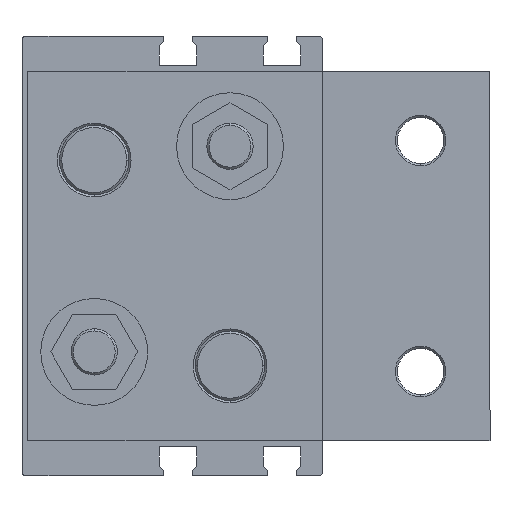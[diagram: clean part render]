
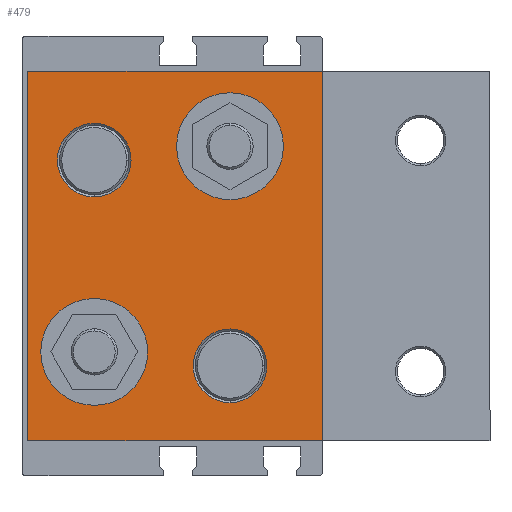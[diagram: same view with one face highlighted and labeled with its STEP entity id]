
A CAD part, left-side view. The second image highlights one B-rep face of the part: STEP entity #479.
In plain terms, the highlighted planar face has unit normal (-1, 0, 0) as drawn and (1, 0, 0) by its records, which use the part's own axes.
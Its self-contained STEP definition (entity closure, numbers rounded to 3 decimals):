
#21 = CARTESIAN_POINT ( 'NONE',  ( 21., -35., -19. ) ) ;
#134 = ORIENTED_EDGE ( 'NONE', *, *, #7344, .F. ) ;
#410 = ORIENTED_EDGE ( 'NONE', *, *, #682, .F. ) ;
#479 = ADVANCED_FACE ( 'NONE', ( #2560, #3978, #2745, #5794, #7237 ), #5134, .F. ) ;
#503 = AXIS2_PLACEMENT_3D ( 'NONE', #4320, #774, #4939 ) ;
#525 = ORIENTED_EDGE ( 'NONE', *, *, #7315, .F. ) ;
#550 = DIRECTION ( 'NONE',  ( 0., 0., -1. ) ) ;
#632 = DIRECTION ( 'NONE',  ( 0., 1., 0. ) ) ;
#633 = ORIENTED_EDGE ( 'NONE', *, *, #2098, .T. ) ;
#674 = VERTEX_POINT ( 'NONE', #2318 ) ;
#682 = EDGE_CURVE ( 'NONE', #2622, #5639, #6271, .T. ) ;
#733 = CARTESIAN_POINT ( 'NONE',  ( 21., -20.75, 16.6 ) ) ;
#768 = CIRCLE ( 'NONE', #4180, 6.375 ) ;
#774 = DIRECTION ( 'NONE',  ( 1., 0., 0. ) ) ;
#788 = EDGE_LOOP ( 'NONE', ( #3219, #4145 ) ) ;
#952 = EDGE_CURVE ( 'NONE', #2512, #674, #3130, .T. ) ;
#976 = ORIENTED_EDGE ( 'NONE', *, *, #2063, .F. ) ;
#1072 = ORIENTED_EDGE ( 'NONE', *, *, #952, .F. ) ;
#1120 = CARTESIAN_POINT ( 'NONE',  ( 21., -35., 19. ) ) ;
#1143 = CARTESIAN_POINT ( 'NONE',  ( 21., -11.5, 16.6 ) ) ;
#1189 = ORIENTED_EDGE ( 'NONE', *, *, #6616, .F. ) ;
#1398 = DIRECTION ( 'NONE',  ( 0., 1., 0. ) ) ;
#1430 = ORIENTED_EDGE ( 'NONE', *, *, #2808, .T. ) ;
#1526 = DIRECTION ( 'NONE',  ( 1., 0., 0. ) ) ;
#1530 = ORIENTED_EDGE ( 'NONE', *, *, #3266, .F. ) ;
#1684 = VERTEX_POINT ( 'NONE', #6154 ) ;
#1702 = DIRECTION ( 'NONE',  ( 0., 0., -1. ) ) ;
#1727 = DIRECTION ( 'NONE',  ( 0., 1., 0. ) ) ;
#1814 = CARTESIAN_POINT ( 'NONE',  ( 21., -11.5, -22.975 ) ) ;
#1963 = CARTESIAN_POINT ( 'NONE',  ( 21., 0., 32. ) ) ;
#1994 = ORIENTED_EDGE ( 'NONE', *, *, #6542, .F. ) ;
#2063 = EDGE_CURVE ( 'NONE', #5442, #6114, #5039, .T. ) ;
#2098 = EDGE_CURVE ( 'NONE', #2512, #6250, #6286, .T. ) ;
#2170 = DIRECTION ( 'NONE',  ( -1., 0., 0. ) ) ;
#2318 = CARTESIAN_POINT ( 'NONE',  ( 21., -51., 32. ) ) ;
#2326 = CARTESIAN_POINT ( 'NONE',  ( 21., -35., 19. ) ) ;
#2470 = CARTESIAN_POINT ( 'NONE',  ( 21., -51., 32. ) ) ;
#2471 = CARTESIAN_POINT ( 'NONE',  ( 21., 0., -32. ) ) ;
#2498 = DIRECTION ( 'NONE',  ( 0., 0., 1. ) ) ;
#2512 = VERTEX_POINT ( 'NONE', #7409 ) ;
#2548 = CARTESIAN_POINT ( 'NONE',  ( 21., 0., 32. ) ) ;
#2560 = FACE_OUTER_BOUND ( 'NONE', #5247, .T. ) ;
#2606 = CARTESIAN_POINT ( 'NONE',  ( 21., -11.5, -10.225 ) ) ;
#2621 = CIRCLE ( 'NONE', #6553, 9.25 ) ;
#2622 = VERTEX_POINT ( 'NONE', #4443 ) ;
#2741 = VECTOR ( 'NONE', #4874, 1000. ) ;
#2745 = FACE_BOUND ( 'NONE', #788, .T. ) ;
#2761 = CARTESIAN_POINT ( 'NONE',  ( 21., -35., 25.375 ) ) ;
#2808 = EDGE_CURVE ( 'NONE', #6250, #6611, #5998, .T. ) ;
#2853 = AXIS2_PLACEMENT_3D ( 'NONE', #5118, #1526, #5737 ) ;
#2887 = CARTESIAN_POINT ( 'NONE',  ( 21., 0., 32. ) ) ;
#2939 = DIRECTION ( 'NONE',  ( 0., 0., -1. ) ) ;
#2968 = DIRECTION ( 'NONE',  ( 0., 1., 0. ) ) ;
#3130 = LINE ( 'NONE', #2470, #5784 ) ;
#3219 = ORIENTED_EDGE ( 'NONE', *, *, #5043, .F. ) ;
#3237 = AXIS2_PLACEMENT_3D ( 'NONE', #5864, #2170, #6532 ) ;
#3266 = EDGE_CURVE ( 'NONE', #6431, #3788, #768, .T. ) ;
#3460 = CARTESIAN_POINT ( 'NONE',  ( 21., -11.5, 16.6 ) ) ;
#3513 = DIRECTION ( 'NONE',  ( 1., 0., 0. ) ) ;
#3532 = EDGE_LOOP ( 'NONE', ( #1530, #1994 ) ) ;
#3539 = EDGE_LOOP ( 'NONE', ( #525, #976 ) ) ;
#3566 = DIRECTION ( 'NONE',  ( 0., 1., 0. ) ) ;
#3741 = VERTEX_POINT ( 'NONE', #7441 ) ;
#3788 = VERTEX_POINT ( 'NONE', #2606 ) ;
#3972 = VECTOR ( 'NONE', #1398, 1000. ) ;
#3978 = FACE_BOUND ( 'NONE', #7072, .T. ) ;
#4090 = DIRECTION ( 'NONE',  ( 1., 0., 0. ) ) ;
#4145 = ORIENTED_EDGE ( 'NONE', *, *, #6768, .F. ) ;
#4174 = DIRECTION ( 'NONE',  ( 1., 0., 0. ) ) ;
#4178 = CARTESIAN_POINT ( 'NONE',  ( 21., 0., -32. ) ) ;
#4180 = AXIS2_PLACEMENT_3D ( 'NONE', #7767, #4090, #550 ) ;
#4320 = CARTESIAN_POINT ( 'NONE',  ( 21., -11.5, -16.6 ) ) ;
#4443 = CARTESIAN_POINT ( 'NONE',  ( 21., -2.25, 16.6 ) ) ;
#4451 = VECTOR ( 'NONE', #2968, 1000. ) ;
#4610 = AXIS2_PLACEMENT_3D ( 'NONE', #2326, #6589, #2939 ) ;
#4828 = CIRCLE ( 'NONE', #2853, 9.25 ) ;
#4874 = DIRECTION ( 'NONE',  ( 0., 0., 1. ) ) ;
#4939 = DIRECTION ( 'NONE',  ( 0., 0., -1. ) ) ;
#5039 = CIRCLE ( 'NONE', #4610, 6.375 ) ;
#5043 = EDGE_CURVE ( 'NONE', #3741, #1684, #2621, .T. ) ;
#5118 = CARTESIAN_POINT ( 'NONE',  ( 21., -35., -19. ) ) ;
#5134 = PLANE ( 'NONE',  #3237 ) ;
#5247 = EDGE_LOOP ( 'NONE', ( #1430, #1189, #1072, #633 ) ) ;
#5307 = DIRECTION ( 'NONE',  ( 1., 0., 0. ) ) ;
#5327 = DIRECTION ( 'NONE',  ( 1., 0., 0. ) ) ;
#5442 = VERTEX_POINT ( 'NONE', #2761 ) ;
#5599 = LINE ( 'NONE', #2548, #3972 ) ;
#5639 = VERTEX_POINT ( 'NONE', #733 ) ;
#5737 = DIRECTION ( 'NONE',  ( 0., 1., 0. ) ) ;
#5784 = VECTOR ( 'NONE', #2498, 1000. ) ;
#5794 = FACE_BOUND ( 'NONE', #3539, .T. ) ;
#5811 = AXIS2_PLACEMENT_3D ( 'NONE', #1120, #5307, #1702 ) ;
#5864 = CARTESIAN_POINT ( 'NONE',  ( 21., -51., 32. ) ) ;
#5998 = LINE ( 'NONE', #2887, #2741 ) ;
#6069 = CIRCLE ( 'NONE', #6639, 9.25 ) ;
#6114 = VERTEX_POINT ( 'NONE', #6602 ) ;
#6154 = CARTESIAN_POINT ( 'NONE',  ( 21., -44.25, -19. ) ) ;
#6250 = VERTEX_POINT ( 'NONE', #2471 ) ;
#6260 = CIRCLE ( 'NONE', #5811, 6.375 ) ;
#6271 = CIRCLE ( 'NONE', #7735, 9.25 ) ;
#6286 = LINE ( 'NONE', #4178, #4451 ) ;
#6368 = CIRCLE ( 'NONE', #503, 6.375 ) ;
#6431 = VERTEX_POINT ( 'NONE', #1814 ) ;
#6532 = DIRECTION ( 'NONE',  ( 0., 0., 1. ) ) ;
#6542 = EDGE_CURVE ( 'NONE', #3788, #6431, #6368, .T. ) ;
#6553 = AXIS2_PLACEMENT_3D ( 'NONE', #21, #4174, #632 ) ;
#6589 = DIRECTION ( 'NONE',  ( 1., 0., 0. ) ) ;
#6602 = CARTESIAN_POINT ( 'NONE',  ( 21., -35., 12.625 ) ) ;
#6611 = VERTEX_POINT ( 'NONE', #1963 ) ;
#6616 = EDGE_CURVE ( 'NONE', #674, #6611, #5599, .T. ) ;
#6639 = AXIS2_PLACEMENT_3D ( 'NONE', #1143, #5327, #1727 ) ;
#6768 = EDGE_CURVE ( 'NONE', #1684, #3741, #4828, .T. ) ;
#7072 = EDGE_LOOP ( 'NONE', ( #410, #134 ) ) ;
#7237 = FACE_BOUND ( 'NONE', #3532, .T. ) ;
#7315 = EDGE_CURVE ( 'NONE', #6114, #5442, #6260, .T. ) ;
#7344 = EDGE_CURVE ( 'NONE', #5639, #2622, #6069, .T. ) ;
#7409 = CARTESIAN_POINT ( 'NONE',  ( 21., -51., -32. ) ) ;
#7441 = CARTESIAN_POINT ( 'NONE',  ( 21., -25.75, -19. ) ) ;
#7735 = AXIS2_PLACEMENT_3D ( 'NONE', #3460, #3513, #3566 ) ;
#7767 = CARTESIAN_POINT ( 'NONE',  ( 21., -11.5, -16.6 ) ) ;
